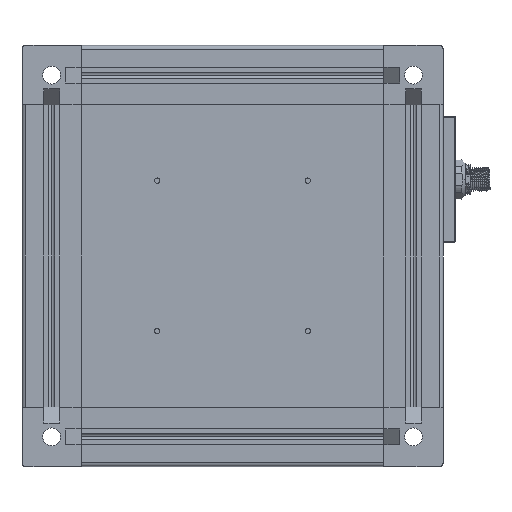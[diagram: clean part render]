
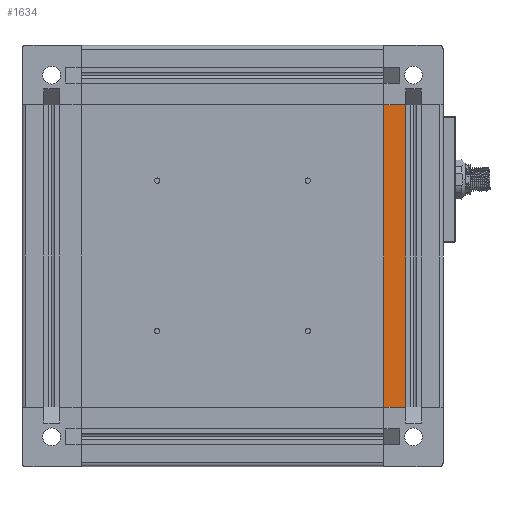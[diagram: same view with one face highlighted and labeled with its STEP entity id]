
A CAD part, front view. The second image highlights one B-rep face of the part: STEP entity #1634.
In plain terms, the highlighted planar face has unit normal (0, -1, 0) as drawn and (0, 0, 1) by its records, which use the part's own axes.
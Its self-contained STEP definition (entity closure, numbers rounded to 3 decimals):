
#1555 = EDGE_LOOP ( 'NONE', ( #72868, #58345, #28879, #65189 ) ) ;
#1634 = ADVANCED_FACE ( 'NONE', ( #2412 ), #53640, .T. ) ;
#1650 = DIRECTION ( 'NONE',  ( 0., -1., 0. ) ) ;
#2412 = FACE_OUTER_BOUND ( 'NONE', #1555, .T. ) ;
#5632 = CARTESIAN_POINT ( 'NONE',  ( -153., -4., 15. ) ) ;
#13487 = AXIS2_PLACEMENT_3D ( 'NONE', #24519, #42271, #1650 ) ;
#14020 = CARTESIAN_POINT ( 'NONE',  ( 0., -4., 15. ) ) ;
#15951 = LINE ( 'NONE', #40566, #29762 ) ;
#18795 = CARTESIAN_POINT ( 'NONE',  ( -153., -4., 15. ) ) ;
#21394 = VECTOR ( 'NONE', #58215, 1000. ) ;
#22062 = DIRECTION ( 'NONE',  ( 0., -1., 0. ) ) ;
#24519 = CARTESIAN_POINT ( 'NONE',  ( -153., -4., 15. ) ) ;
#28879 = ORIENTED_EDGE ( 'NONE', *, *, #50325, .T. ) ;
#29762 = VECTOR ( 'NONE', #22062, 1000. ) ;
#35138 = EDGE_CURVE ( 'NONE', #54770, #56430, #46502, .T. ) ;
#38842 = VERTEX_POINT ( 'NONE', #59037 ) ;
#40566 = CARTESIAN_POINT ( 'NONE',  ( 0., -4., 15. ) ) ;
#42271 = DIRECTION ( 'NONE',  ( 0., 0., 1. ) ) ;
#46502 = LINE ( 'NONE', #18795, #21394 ) ;
#46557 = LINE ( 'NONE', #69281, #53297 ) ;
#50325 = EDGE_CURVE ( 'NONE', #54770, #38842, #57598, .T. ) ;
#50735 = CARTESIAN_POINT ( 'NONE',  ( 0., -15., 15. ) ) ;
#51922 = CARTESIAN_POINT ( 'NONE',  ( -153., -4., 15. ) ) ;
#52422 = EDGE_CURVE ( 'NONE', #38842, #68794, #46557, .T. ) ;
#53297 = VECTOR ( 'NONE', #68909, 1000. ) ;
#53640 = PLANE ( 'NONE',  #13487 ) ;
#54770 = VERTEX_POINT ( 'NONE', #51922 ) ;
#56430 = VERTEX_POINT ( 'NONE', #14020 ) ;
#57598 = LINE ( 'NONE', #5632, #67744 ) ;
#57960 = DIRECTION ( 'NONE',  ( 0., -1., 0. ) ) ;
#58215 = DIRECTION ( 'NONE',  ( 1., 0., 0. ) ) ;
#58345 = ORIENTED_EDGE ( 'NONE', *, *, #35138, .F. ) ;
#59037 = CARTESIAN_POINT ( 'NONE',  ( -153., -15., 15. ) ) ;
#65189 = ORIENTED_EDGE ( 'NONE', *, *, #52422, .T. ) ;
#67744 = VECTOR ( 'NONE', #57960, 1000. ) ;
#68794 = VERTEX_POINT ( 'NONE', #50735 ) ;
#68909 = DIRECTION ( 'NONE',  ( 1., 0., 0. ) ) ;
#69281 = CARTESIAN_POINT ( 'NONE',  ( -153., -15., 15. ) ) ;
#71289 = EDGE_CURVE ( 'NONE', #56430, #68794, #15951, .T. ) ;
#72868 = ORIENTED_EDGE ( 'NONE', *, *, #71289, .F. ) ;
